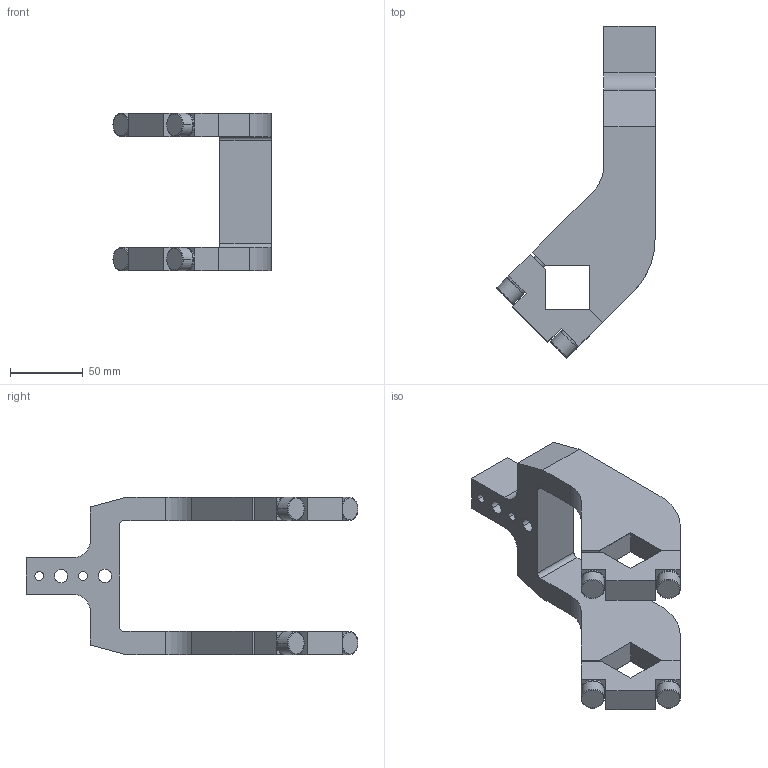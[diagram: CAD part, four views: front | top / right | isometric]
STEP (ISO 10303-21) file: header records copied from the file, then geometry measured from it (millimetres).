
FILE_DESCRIPTION(('CATIA V5 STEP Exchange'),'2;1');
FILE_NAME('E:\clampact\CLAMPACT\clampact\catalog\Clampact Arm\Arm 3D\Clampact Arm\arm_K80_25_A80_Clampact.stp','2022-12-06T08:57:46+00:00',('none'),('none'),'CATIA Version 5 Release 19 SP 6 (IN-10)','CATIA V5 STEP AP203','none');
FILE_SCHEMA(('CONFIG_CONTROL_DESIGN'));
Length unit declared in the file: millimetre
Products named in the file (1): K80_25_A80_Clampact-柯莱普
Bounding box: 108.33 x 227.33 x 108 mm (x, y, z)
Volume: 356653.4 mm3; surface area: 71557 mm2
Topology: 1 solids, 5 shells, 160 faces, 412 edges, 256 vertices
Faces by surface type: plane 80, cylinder 48, cone 20, torus 12
Entity records: 4623 total; most frequent: CARTESIAN_POINT 1002, ORIENTED_EDGE 808, DIRECTION 592, EDGE_CURVE 404, VERTEX_POINT 256, VECTOR 242, LINE 242, AXIS2_PLACEMENT_3D 238
